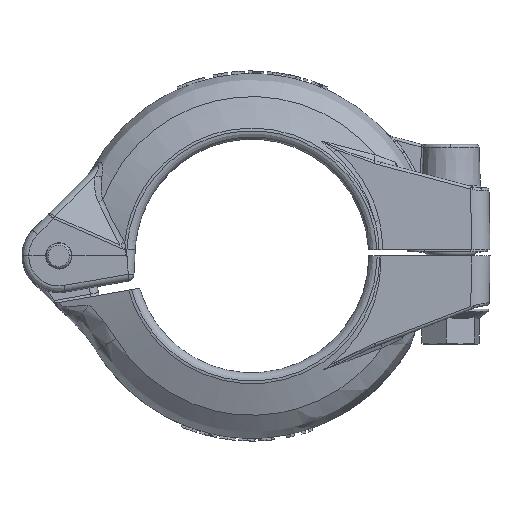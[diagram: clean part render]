
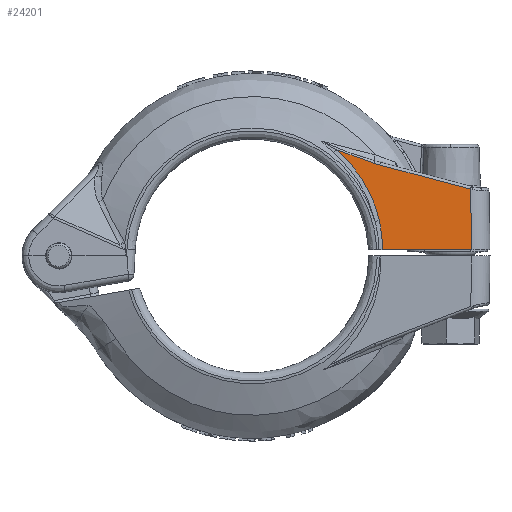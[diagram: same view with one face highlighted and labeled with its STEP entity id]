
A CAD part, top view. The second image highlights one B-rep face of the part: STEP entity #24201.
In plain terms, the highlighted planar face has unit normal (0, 0.018, 1).
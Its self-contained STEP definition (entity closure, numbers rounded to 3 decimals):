
#6 = ORIENTED_EDGE ( 'NONE', *, *, #21778, .T. ) ;
#7 = ORIENTED_EDGE ( 'NONE', *, *, #21779, .T. ) ;
#8 = ORIENTED_EDGE ( 'NONE', *, *, #21780, .T. ) ;
#9 = ORIENTED_EDGE ( 'NONE', *, *, #31702, .T. ) ;
#10 = ORIENTED_EDGE ( 'NONE', *, *, #21781, .T. ) ;
#11 = ORIENTED_EDGE ( 'NONE', *, *, #21782, .T. ) ;
#12 = ORIENTED_EDGE ( 'NONE', *, *, #21783, .T. ) ;
#3606 = CARTESIAN_POINT ( 'NONE',  ( 41.022, 1.143, 10.033 ) ) ;
#3708 = CARTESIAN_POINT ( 'NONE',  ( 15.685, 19.899, 9.706 ) ) ;
#3712 = CARTESIAN_POINT ( 'NONE',  ( 22.814, 17.267, 9.752 ) ) ;
#6784 = CARTESIAN_POINT ( 'NONE',  ( 23.787, 6.609, 9.938 ) ) ;
#6800 = CARTESIAN_POINT ( 'NONE',  ( 40.824, 12.472, 9.835 ) ) ;
#6803 = CARTESIAN_POINT ( 'NONE',  ( 23.863, 16.973, 9.757 ) ) ;
#9161 = EDGE_LOOP ( 'NONE', ( #6, #7, #8, #9, #10, #11, #12 ) ) ;
#9273 = VERTEX_POINT ( 'NONE', #3606 ) ;
#9375 = VERTEX_POINT ( 'NONE', #3708 ) ;
#9379 = VERTEX_POINT ( 'NONE', #3712 ) ;
#9522 = CARTESIAN_POINT ( 'NONE',  ( 1.343, 1.143, 10.033 ) ) ;
#9523 = DIRECTION ( 'NONE',  ( 1., 0., 0. ) ) ;
#12860 = LINE ( 'NONE', #9522, #12863 ) ;
#12863 = VECTOR ( 'NONE', #9523, 1000. ) ;
#14139 = LINE ( 'NONE', #30874, #28127 ) ;
#15997 = AXIS2_PLACEMENT_3D ( 'NONE', #33142, #33148, #33149 ) ;
#19970 = VERTEX_POINT ( 'NONE', #37553 ) ;
#20468 = VERTEX_POINT ( 'NONE', #6784 ) ;
#20476 = VERTEX_POINT ( 'NONE', #6800 ) ;
#20478 = VERTEX_POINT ( 'NONE', #6803 ) ;
#21778 = EDGE_CURVE ( 'NONE', #9379, #9375, #43293, .T. ) ;
#21779 = EDGE_CURVE ( 'NONE', #9375, #20468, #43294, .T. ) ;
#21780 = EDGE_CURVE ( 'NONE', #20468, #19970, #43295, .T. ) ;
#21781 = EDGE_CURVE ( 'NONE', #9273, #20476, #14139, .T. ) ;
#21782 = EDGE_CURVE ( 'NONE', #20476, #20478, #28129, .T. ) ;
#21783 = EDGE_CURVE ( 'NONE', #20478, #9379, #43296, .T. ) ;
#24201 = ADVANCED_FACE ( 'NONE', ( #25054 ), #33146, .T. ) ;
#25054 = FACE_OUTER_BOUND ( 'NONE', #9161, .T. ) ;
#28127 = VECTOR ( 'NONE', #30877, 1000. ) ;
#28129 = LINE ( 'NONE', #30879, #28130 ) ;
#28130 = VECTOR ( 'NONE', #30881, 1000. ) ;
#30821 = CARTESIAN_POINT ( 'NONE',  ( 21.597, 17.624, 9.745 ) ) ;
#30822 = CARTESIAN_POINT ( 'NONE',  ( 22.814, 17.267, 9.752 ) ) ;
#30830 = CARTESIAN_POINT ( 'NONE',  ( 15.685, 19.899, 9.706 ) ) ;
#30833 = CARTESIAN_POINT ( 'NONE',  ( 16.706, 19.042, 9.721 ) ) ;
#30835 = CARTESIAN_POINT ( 'NONE',  ( 20.395, 18.024, 9.738 ) ) ;
#30836 = CARTESIAN_POINT ( 'NONE',  ( 18.017, 18.902, 9.723 ) ) ;
#30838 = CARTESIAN_POINT ( 'NONE',  ( 16.84, 19.377, 9.715 ) ) ;
#30840 = CARTESIAN_POINT ( 'NONE',  ( 15.685, 19.899, 9.706 ) ) ;
#30842 = CARTESIAN_POINT ( 'NONE',  ( 23.787, 6.609, 9.938 ) ) ;
#30844 = CARTESIAN_POINT ( 'NONE',  ( 23.99, 5.712, 9.953 ) ) ;
#30846 = CARTESIAN_POINT ( 'NONE',  ( 17.643, 18.113, 9.737 ) ) ;
#30847 = CARTESIAN_POINT ( 'NONE',  ( 19.355, 16.118, 9.772 ) ) ;
#30849 = CARTESIAN_POINT ( 'NONE',  ( 20.131, 15.053, 9.79 ) ) ;
#30851 = CARTESIAN_POINT ( 'NONE',  ( 21.169, 13.349, 9.82 ) ) ;
#30853 = CARTESIAN_POINT ( 'NONE',  ( 21.492, 12.767, 9.83 ) ) ;
#30854 = CARTESIAN_POINT ( 'NONE',  ( 22.086, 11.586, 9.851 ) ) ;
#30856 = CARTESIAN_POINT ( 'NONE',  ( 22.357, 10.987, 9.861 ) ) ;
#30858 = CARTESIAN_POINT ( 'NONE',  ( 23.098, 9.159, 9.893 ) ) ;
#30860 = CARTESIAN_POINT ( 'NONE',  ( 23.493, 7.904, 9.915 ) ) ;
#30862 = CARTESIAN_POINT ( 'NONE',  ( 23.787, 6.609, 9.938 ) ) ;
#30864 = CARTESIAN_POINT ( 'NONE',  ( 23.512, 17.066, 9.755 ) ) ;
#30866 = CARTESIAN_POINT ( 'NONE',  ( 23.863, 16.973, 9.757 ) ) ;
#30867 = CARTESIAN_POINT ( 'NONE',  ( 24.14, 4.807, 9.969 ) ) ;
#30869 = CARTESIAN_POINT ( 'NONE',  ( 24.332, 2.979, 10.001 ) ) ;
#30871 = CARTESIAN_POINT ( 'NONE',  ( 24.377, 2.062, 10.017 ) ) ;
#30873 = CARTESIAN_POINT ( 'NONE',  ( 24.359, 1.143, 10.033 ) ) ;
#30874 = CARTESIAN_POINT ( 'NONE',  ( 41.01, 1.835, 10.021 ) ) ;
#30877 = DIRECTION ( 'NONE',  ( -0.017, 1., -0.017 ) ) ;
#30879 = CARTESIAN_POINT ( 'NONE',  ( 21.648, 17.561, 9.746 ) ) ;
#30881 = DIRECTION ( 'NONE',  ( -0.967, 0.257, -0.004 ) ) ;
#30887 = CARTESIAN_POINT ( 'NONE',  ( 23.163, 17.165, 9.753 ) ) ;
#30888 = CARTESIAN_POINT ( 'NONE',  ( 22.814, 17.267, 9.752 ) ) ;
#31702 = EDGE_CURVE ( 'NONE', #19970, #9273, #12860, .T. ) ;
#33142 = CARTESIAN_POINT ( 'NONE',  ( 1.343, 1.143, 10.033 ) ) ;
#33146 = PLANE ( 'NONE',  #15997 ) ;
#33148 = DIRECTION ( 'NONE',  ( 0., 0.017, 1. ) ) ;
#33149 = DIRECTION ( 'NONE',  ( 0., -1., 0.017 ) ) ;
#37553 = CARTESIAN_POINT ( 'NONE',  ( 24.359, 1.143, 10.033 ) ) ;
#43293 = B_SPLINE_CURVE_WITH_KNOTS ( 'NONE', 3,
 ( #30822, #30821, #30835, #30836, #30838, #30840 ),
 .UNSPECIFIED., .F., .F.,
 ( 4, 2, 4 ),
 ( 0., 0.004, 0.008 ),
 .UNSPECIFIED. ) ;
#43294 = B_SPLINE_CURVE_WITH_KNOTS ( 'NONE', 3,
 ( #30830, #30833, #30846, #30847, #30849, #30851, #30853, #30854, #30856, #30858, #30860, #30862 ),
 .UNSPECIFIED., .F., .F.,
 ( 4, 2, 2, 2, 2, 4 ),
 ( 0., 0.004, 0.008, 0.01, 0.012, 0.016 ),
 .UNSPECIFIED. ) ;
#43295 = B_SPLINE_CURVE_WITH_KNOTS ( 'NONE', 3,
 ( #30842, #30844, #30867, #30869, #30871, #30873 ),
 .UNSPECIFIED., .F., .F.,
 ( 4, 2, 4 ),
 ( 0., 0.003, 0.006 ),
 .UNSPECIFIED. ) ;
#43296 = B_SPLINE_CURVE_WITH_KNOTS ( 'NONE', 3,
 ( #30866, #30864, #30887, #30888 ),
 .UNSPECIFIED., .F., .F.,
 ( 4, 4 ),
 ( 0., 0.001 ),
 .UNSPECIFIED. ) ;
